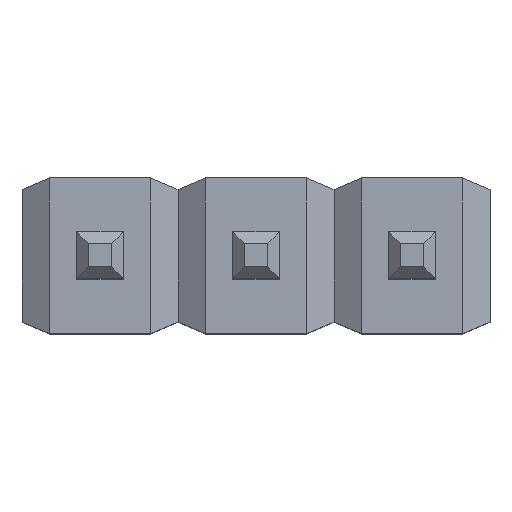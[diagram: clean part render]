
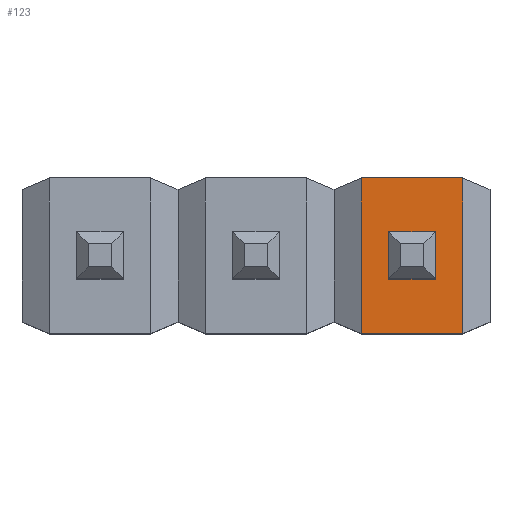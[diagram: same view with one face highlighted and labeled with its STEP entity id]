
A CAD part, top view. The second image highlights one B-rep face of the part: STEP entity #123.
In plain terms, the highlighted planar face has unit normal (0, 0, 1).
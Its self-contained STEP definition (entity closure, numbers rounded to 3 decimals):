
#95=CARTESIAN_POINT('',(5.905,1.27,2.862));
#94=VERTEX_POINT('',#95);
#105=CARTESIAN_POINT('',(5.905,-1.27,2.862));
#104=VERTEX_POINT('',#105);
#103=EDGE_CURVE('',#104,#94,#108,.T.);
#108=LINE('',#105,#110);
#110=VECTOR('',#111,2.54);
#111=DIRECTION('',(0.0,1.0,0.0));
#123=ADVANCED_FACE('',(#129),#124,.T.);
#124=PLANE('',#125);
#125=AXIS2_PLACEMENT_3D('',#126,#127,#128);
#126=CARTESIAN_POINT('',(4.255,-1.27,2.862));
#127=DIRECTION('',(0.0,0.0,1.0));
#128=DIRECTION('',(0.,1.,0.));
#129=FACE_OUTER_BOUND('',#130,.T.);
#130=EDGE_LOOP('',(#131,#141,#151,#161));
#136=CARTESIAN_POINT('',(4.255,-1.27,2.862));
#135=VERTEX_POINT('',#136);
#132=EDGE_CURVE('',#104,#135,#137,.T.);
#137=LINE('',#105,#139);
#139=VECTOR('',#140,1.651);
#140=DIRECTION('',(-1.0,0.0,0.0));
#131=ORIENTED_EDGE('',*,*,#132,.F.);
#141=ORIENTED_EDGE('',*,*,#103,.T.);
#154=CARTESIAN_POINT('',(4.255,1.27,2.862));
#153=VERTEX_POINT('',#154);
#152=EDGE_CURVE('',#153,#94,#157,.T.);
#157=LINE('',#154,#159);
#159=VECTOR('',#160,1.651);
#160=DIRECTION('',(1.0,0.0,0.0));
#151=ORIENTED_EDGE('',*,*,#152,.F.);
#162=EDGE_CURVE('',#135,#153,#167,.T.);
#167=LINE('',#136,#169);
#169=VECTOR('',#170,2.54);
#170=DIRECTION('',(0.0,1.0,0.0));
#161=ORIENTED_EDGE('',*,*,#162,.F.);
